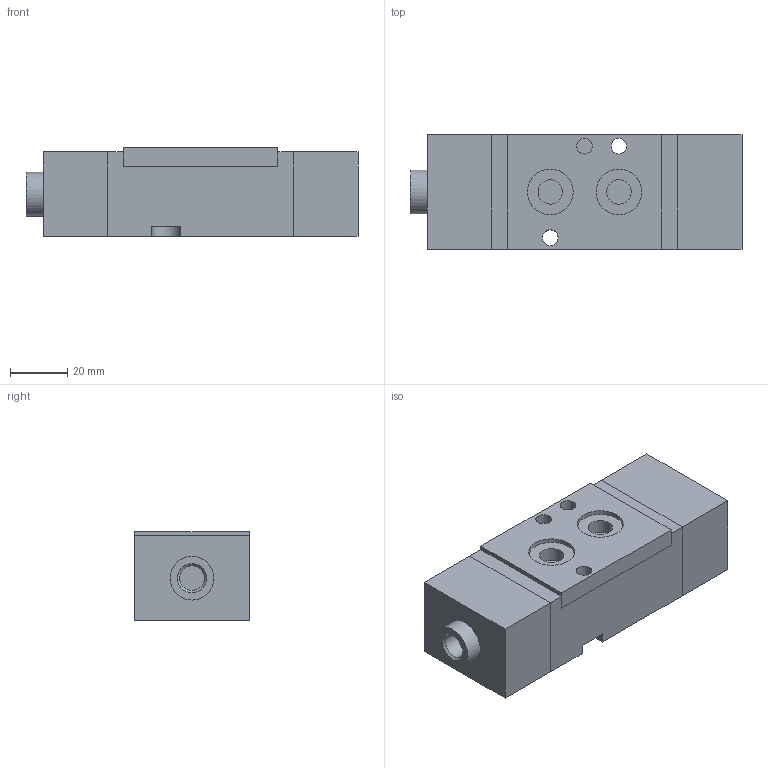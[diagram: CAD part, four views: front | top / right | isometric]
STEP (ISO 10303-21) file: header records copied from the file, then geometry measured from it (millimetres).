
FILE_DESCRIPTION((''),'2;1');
FILE_NAME('I:\Area Tecnica\Disegni\VARIE-3D\Componenti\T514\3D\T514520016.stp','2008-05-09T11:19:33',('foiengi1'),(''),'Autodesk Inventor 2008','Autodesk Inventor 2008','');
FILE_SCHEMA(('AUTOMOTIVE_DESIGN { 1 0 10303 214 1 1 1 1 }'));
Length unit declared in the file: millimetre
Products named in the file (1): T514520016
Bounding box: 116 x 40 x 31 mm (x, y, z)
Volume: 127619.1 mm3; surface area: 20767.1 mm2
Topology: 1 solids, 1 shells, 72 faces, 151 edges, 98 vertices
Faces by surface type: plane 35, bspline 30, cylinder 7
Full cylindrical faces by diameter (mm): 5.5 x2, 15.31 x1, 16 x2
Entity records: 2100 total; most frequent: CARTESIAN_POINT 615, ORIENTED_EDGE 260, DIRECTION 258, EDGE_CURVE 130, EDGE_LOOP 114, VERTEX_POINT 98, VECTOR 88, LINE 88
